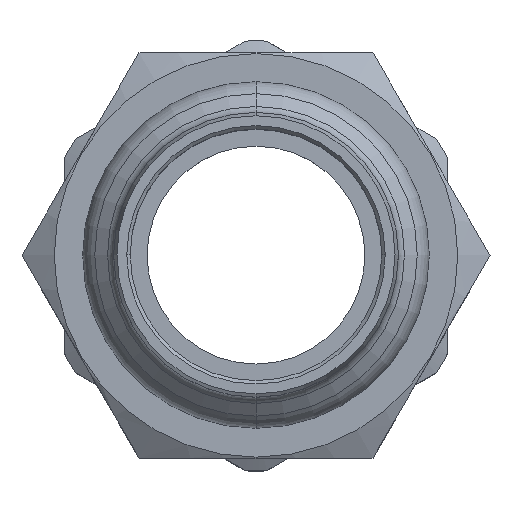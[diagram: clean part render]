
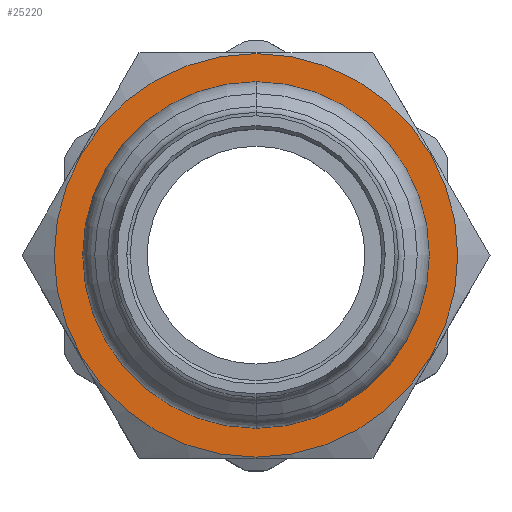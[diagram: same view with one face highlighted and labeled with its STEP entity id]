
A CAD part, top view. The second image highlights one B-rep face of the part: STEP entity #25220.
In plain terms, the highlighted planar face has unit normal (0, 0, 1) as drawn and (1, 0, 0) by its records, which use the part's own axes.
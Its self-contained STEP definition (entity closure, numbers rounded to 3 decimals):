
#22100=CARTESIAN_POINT('',(-53.271,119.293,0.));
#22110=VERTEX_POINT('',#22100);
#24830=CARTESIAN_POINT('',(-53.271,83.447,
0.));
#24840=VERTEX_POINT('',#24830);
#24870=CARTESIAN_POINT('',(-53.271,101.37,0.));
#24880=DIRECTION('',(-1.,0.,0.));
#24890=DIRECTION('',(0.,-1.,0.));
#24900=AXIS2_PLACEMENT_3D('',#24870,#24880,#24890);
#24910=CIRCLE('',#24900,17.923);
#24920=EDGE_CURVE('',#22110,#24840,#24910,.T.);
#24970=CARTESIAN_POINT('',(-53.271,92.409,0.));
#24980=DIRECTION('',(-1.,0.,-0.));
#24990=DIRECTION('',(0.,1.,0.));
#25000=AXIS2_PLACEMENT_3D('',#24970,#24980,#24990);
#25010=PLANE('',#25000);
#25020=EDGE_CURVE('',#24840,#22110,#24910,.T.);
#25030=ORIENTED_EDGE('',*,*,#25020,.F.);
#25040=ORIENTED_EDGE('',*,*,#24920,.F.);
#25050=EDGE_LOOP('',(#25040,#25030));
#25060=FACE_OUTER_BOUND('',#25050,.T.);
#25070=CARTESIAN_POINT('',(-53.271,101.37,
0.));
#25080=DIRECTION('',(1.,0.,0.));
#25090=DIRECTION('',(0.,-1.,0.));
#25100=AXIS2_PLACEMENT_3D('',#25070,#25080,#25090);
#25110=CIRCLE('',#25100,14.677);
#25120=CARTESIAN_POINT('',(-53.271,86.693,
0.));
#25130=VERTEX_POINT('',#25120);
#25140=CARTESIAN_POINT('',(-53.271,116.047,
0.));
#25150=VERTEX_POINT('',#25140);
#25160=EDGE_CURVE('',#25130,#25150,#25110,.T.);
#25170=ORIENTED_EDGE('',*,*,#25160,.F.);
#25180=EDGE_CURVE('',#25150,#25130,#25110,.T.);
#25190=ORIENTED_EDGE('',*,*,#25180,.F.);
#25200=EDGE_LOOP('',(#25190,#25170));
#25210=FACE_BOUND('',#25200,.T.);
#25220=ADVANCED_FACE('',(#25060,#25210),#25010,.F.);
